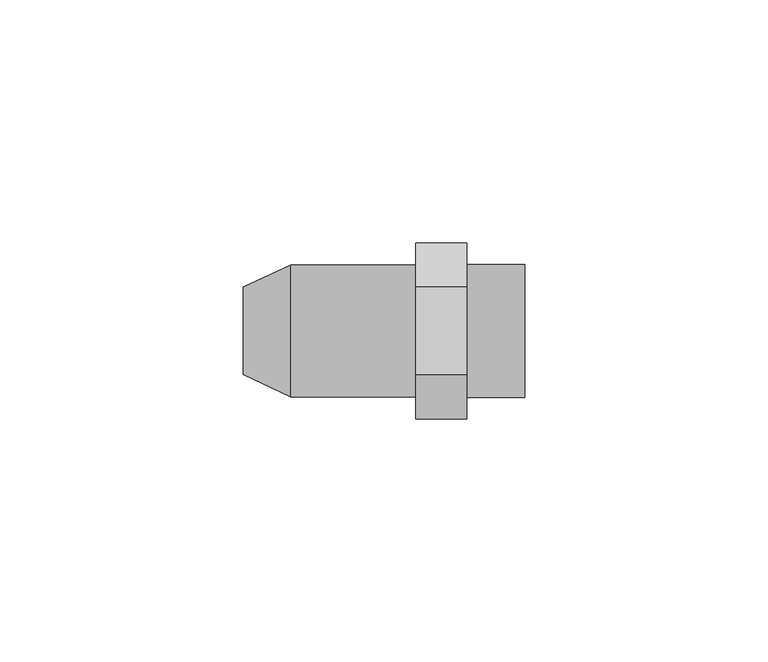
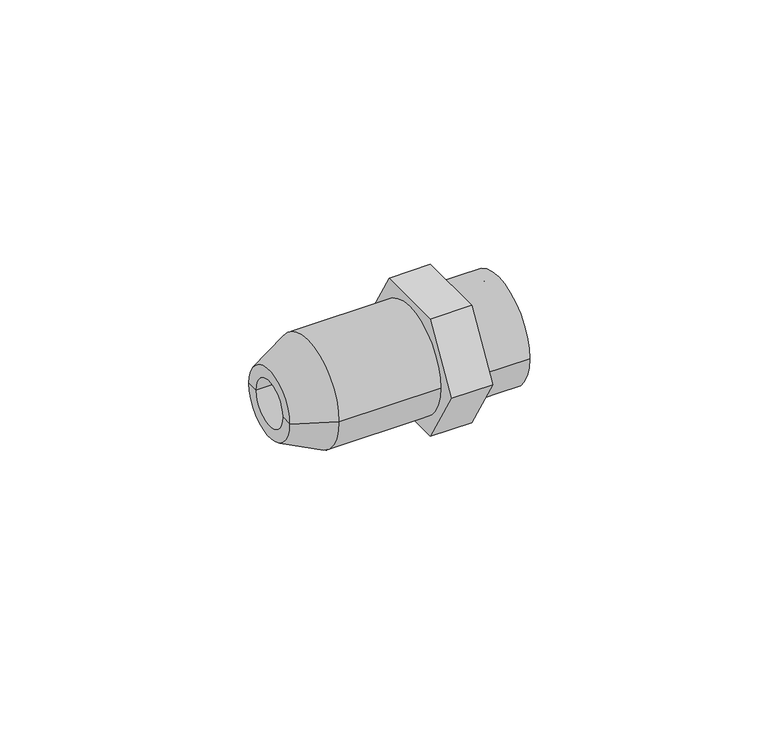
"""IFC4 building model written with IfcOpenShell, lengths in millimetres: pipe fitting geometry."""

import ifcopenshell
import ifcopenshell.guid

model = None  # the IFC model being written
_history = None  # IfcOwnerHistory: only IFC2X3 demands one
_inside = {}  # id of a spatial element -> (the spatial element, [elements in it])
_under = {}  # id of a project, library or spatial element -> (it, [spatial elements below it])
_declared = {}  # id of a project -> (the project, [libraries it declares])
_typed = {}  # id of a type object -> (the type object, [elements of that type])
_made_of = {}  # id of a material, layer set ... -> (it, [elements and type objects made of it])


def new_model(schema):
    """Start an empty IFC model of exactly this schema.

    Asked for "IFC4X3", IfcOpenShell would pick the latest addendum, in which some entities
    have other attributes; the version numbers below select the first issue.
    IFC2X3 requires an IfcOwnerHistory on every rooted entity: one is made here for all.
    """
    global model, _history
    if schema == "IFC4X3":
        model = ifcopenshell.file(schema_version=(4, 3, 0, 0))
    else:
        model = ifcopenshell.file(schema=schema)
    _inside.clear()
    _under.clear()
    _declared.clear()
    _typed.clear()
    _made_of.clear()
    _history = None
    if model.schema == "IFC2X3":
        org = make("IfcOrganization", Name="unknown")
        user = make(
            "IfcPersonAndOrganization",
            ThePerson=make("IfcPerson", FamilyName="unknown"),
            TheOrganization=org,
        )
        app = make(
            "IfcApplication",
            ApplicationDeveloper=org,
            Version="unknown",
            ApplicationFullName="unknown",
            ApplicationIdentifier="unknown",
        )
        _history = make(
            "IfcOwnerHistory",
            OwningUser=user,
            OwningApplication=app,
            ChangeAction="ADDED",
            CreationDate=0,
        )
    return model


def make(cls, **values):
    """One entity of the class cls with the attributes given. An attribute that is None is left unset."""
    return model.create_entity(
        cls, **{name: value for name, value in values.items() if value is not None}
    )


def rooted(cls, **values):
    """An entity with a GlobalId (a new one), such as an element, a storey or a relation."""
    return make(cls, GlobalId=ifcopenshell.guid.new(), OwnerHistory=_history, **values)


def si_unit(unit_type, name, prefix=None):
    """IfcSIUnit, for example si_unit("LENGTHUNIT", "METRE", prefix="MILLI")."""
    return make("IfcSIUnit", UnitType=unit_type, Prefix=prefix, Name=name)


def assignment(units):
    """IfcUnitAssignment: the units of a project."""
    return None if units is None else make("IfcUnitAssignment", Units=units)


def point(xyz):
    """IfcCartesianPoint."""
    return None if xyz is None else make("IfcCartesianPoint", Coordinates=xyz)


def direction(xyz):
    """IfcDirection."""
    return None if xyz is None else make("IfcDirection", DirectionRatios=xyz)


def frame(location, z_axis=None, x_axis=None):
    """IfcAxis2Placement3D, a coordinate frame: its origin and axes. An axis left out is left unset."""
    return make(
        "IfcAxis2Placement3D",
        Location=point(location),
        Axis=direction(z_axis),
        RefDirection=direction(x_axis),
    )


def frame_2d(location, x_axis=None):
    """IfcAxis2Placement2D, a coordinate frame in the plane: its origin and x axis."""
    return make(
        "IfcAxis2Placement2D", Location=point(location), RefDirection=direction(x_axis)
    )


def origin():
    """The frame at (0, 0, 0) with its axes left unset."""
    return frame((0.0, 0.0, 0.0))


def origin_2d():
    """The frame at (0, 0) in the plane with its x axis left unset."""
    return frame_2d((0.0, 0.0))


def place(relative_to, where):
    """IfcLocalPlacement: puts the frame where relative to a parent placement (None: the world)."""
    return make(
        "IfcLocalPlacement", PlacementRelTo=relative_to, RelativePlacement=where
    )


def context(
    kind, dimensions, precision=None, world=None, true_north=None, identifier=None
):
    """IfcGeometricRepresentationContext, for example the 3D "Model" context."""
    return make(
        "IfcGeometricRepresentationContext",
        ContextIdentifier=identifier,
        ContextType=kind,
        CoordinateSpaceDimension=dimensions,
        Precision=precision,
        WorldCoordinateSystem=world,
        TrueNorth=true_north,
    )


def project(units=None, contexts=None):
    """IfcProject with its units and contexts."""
    return rooted(
        "IfcProject",
        Name="project",
        RepresentationContexts=contexts,
        UnitsInContext=assignment(units),
    )


def spatial(cls, under=None, at=None, **own):
    """A site, building, storey or space (cls), placed at a placement, below another one or the project."""
    s = rooted(cls, ObjectPlacement=at, **own)
    if under is not None:
        _under.setdefault(under.id(), (under, []))[1].append(s)
    return s


def polyline(points):
    """IfcPolyline through the points."""
    return make("IfcPolyline", Points=[point(p) for p in points])


def circle_curve(where, radius):
    """IfcCircle in the frame where."""
    return make("IfcCircle", Position=where, Radius=radius)


def trimmed(basis, trim1, trim2, sense, master):
    """IfcTrimmedCurve: the piece of a basis curve between two trims."""
    return make(
        "IfcTrimmedCurve",
        BasisCurve=basis,
        Trim1=trim1,
        Trim2=trim2,
        SenseAgreement=sense,
        MasterRepresentation=master,
    )


def segment(curve, same_sense, transition):
    """IfcCompositeCurveSegment."""
    return make(
        "IfcCompositeCurveSegment",
        Transition=transition,
        SameSense=same_sense,
        ParentCurve=curve,
    )


def composite_curve(segments, self_intersect=None):
    """IfcCompositeCurve: segments joined end to end."""
    return make("IfcCompositeCurve", Segments=segments, SelfIntersect=self_intersect)


def outline(outer, holes=None, kind="AREA"):
    """IfcArbitraryClosedProfileDef: a profile drawn as a closed curve; with holes, ...WithVoids."""
    if holes is None:
        return make("IfcArbitraryClosedProfileDef", ProfileType=kind, OuterCurve=outer)
    return make(
        "IfcArbitraryProfileDefWithVoids",
        ProfileType=kind,
        OuterCurve=outer,
        InnerCurves=holes,
    )


def extrude(swept, where, along, depth):
    """IfcExtrudedAreaSolid: the profile swept, set in the frame where, extruded along a direction by depth."""
    return make(
        "IfcExtrudedAreaSolid",
        SweptArea=swept,
        Position=where,
        ExtrudedDirection=direction(along),
        Depth=depth,
    )


def shape(context_of_items, identifier, shape_type, items):
    """IfcShapeRepresentation: the items that make up one representation, for example the "Body"."""
    return make(
        "IfcShapeRepresentation",
        ContextOfItems=context_of_items,
        RepresentationIdentifier=identifier,
        RepresentationType=shape_type,
        Items=items,
    )


def source(mapping_origin, context_of_items, identifier, shape_type, items):
    """IfcRepresentationMap: a shape defined once, which mapped items show again and again."""
    return make(
        "IfcRepresentationMap",
        MappingOrigin=mapping_origin,
        MappedRepresentation=shape(context_of_items, identifier, shape_type, items),
    )


def transform(
    local_origin,
    x_axis=None,
    y_axis=None,
    z_axis=None,
    scale=None,
    scale2=None,
    scale3=None,
    uniform=True,
):
    """IfcCartesianTransformationOperator3D, or its non-uniform kind. x_axis, y_axis, z_axis: its Axis1, 2, 3."""
    if uniform:
        return make(
            "IfcCartesianTransformationOperator3D",
            Axis1=direction(x_axis),
            Axis2=direction(y_axis),
            LocalOrigin=point(local_origin),
            Scale=scale,
            Axis3=direction(z_axis),
        )
    return make(
        "IfcCartesianTransformationOperator3DnonUniform",
        Axis1=direction(x_axis),
        Axis2=direction(y_axis),
        LocalOrigin=point(local_origin),
        Scale=scale,
        Axis3=direction(z_axis),
        Scale2=scale2,
        Scale3=scale3,
    )


def mapped(mapping_source, mapping_target):
    """IfcMappedItem: shows the shape of a source again, moved by a transform."""
    return make(
        "IfcMappedItem", MappingSource=mapping_source, MappingTarget=mapping_target
    )


def made_of(thing, what):
    """Note that an element or type object is made of a material, layer set ...; save() writes the relation."""
    if what is not None:
        _made_of.setdefault(what.id(), (what, []))[1].append(thing)
    return thing


def element(
    cls,
    number,
    at=None,
    inside=None,
    cuts=None,
    type_object=None,
    material=None,
    context=None,
    identifier="Body",
    shape_type=None,
    held_by="IfcProductDefinitionShape",
    body=None,
    shapes=None,
    **own,
):
    """One element of the class cls, such as IfcWall. Its Tag is "e" and its number.

    at: its placement. inside: the storey or other place that contains it. cuts: it is an
    opening in that element (IfcRelVoidsElement). A single representation is given by context,
    identifier, shape_type and body (its items); several are given by shapes. held_by: the class
    of the entity that holds the representations. save() writes the other relations.
    """
    e = rooted(cls, Tag="e%d" % number, ObjectPlacement=at, **own)
    if body is not None:
        shapes = [shape(context, identifier, shape_type, body)]
    if shapes is not None:
        e.Representation = make(held_by, Representations=shapes)
    if inside is not None:
        _inside.setdefault(inside.id(), (inside, []))[1].append(e)
    if cuts is not None:
        rooted(
            "IfcRelVoidsElement", RelatingBuildingElement=cuts, RelatedOpeningElement=e
        )
    if type_object is not None:
        _typed.setdefault(type_object.id(), (type_object, []))[1].append(e)
    return made_of(e, material)


def aggregate(whole, parts):
    """IfcRelAggregates: a whole, such as a stair, and the parts it consists of."""
    return rooted("IfcRelAggregates", RelatingObject=whole, RelatedObjects=parts)


def save(model, path):
    """Write the relations noted so far, then the file.

    IfcRelAggregates (storeys below a building ...), IfcRelContainedInSpatialStructure (elements
    in a storey), IfcRelDefinesByType, IfcRelAssociatesMaterial and IfcRelDeclares: one each for
    every whole, place, type object, material and project.
    """
    for whole, parts in _under.values():
        aggregate(whole, parts)
    for where, things in _inside.values():
        rooted(
            "IfcRelContainedInSpatialStructure",
            RelatedElements=things,
            RelatingStructure=where,
        )
    for kind, things in _typed.values():
        rooted("IfcRelDefinesByType", RelatedObjects=things, RelatingType=kind)
    for what, things in _made_of.values():
        rooted("IfcRelAssociatesMaterial", RelatedObjects=things, RelatingMaterial=what)
    for by, libraries in _declared.values():
        rooted("IfcRelDeclares", RelatingContext=by, RelatedDefinitions=libraries)
    model.write(path)


def plane_surface(at):
    """IfcPlane: the flat surface through the origin of the frame at, square to its z axis."""
    return make("IfcPlane", Position=at)


def cylinder_surface(at, radius):
    """IfcCylindricalSurface: all points at the distance radius from the z axis of the frame at."""
    return make("IfcCylindricalSurface", Position=at, Radius=radius)


def revolved_surface(curve, axis_point, axis_direction):
    """IfcSurfaceOfRevolution: the curve turned about the line through axis_point along axis_direction."""
    return make(
        "IfcSurfaceOfRevolution",
        SweptCurve=make("IfcArbitraryOpenProfileDef", ProfileType="CURVE", Curve=curve),
        AxisPosition=make("IfcAxis1Placement", Location=point(axis_point), Axis=direction(axis_direction)),
    )


def advanced_brep(points, edges, surfaces, faces):
    """IfcAdvancedBrep: a solid bounded by faces that lie on surfaces and meet in shared edges.

    An edge is (start, end): straight between two places in points (the first is 0);
    or (start, end, curve); or (start, end, curve, False) where it runs against its curve.
    A face is (place in surfaces, loops), or (place, loops, False) where it looks against
    its surface's normal. A loop lists edges by number (the first is 1), with a minus sign
    where the edge is run from its end to its start. The first loop is the outer one.
    """
    corners = [point(p) for p in points]
    vertices = [make("IfcVertexPoint", VertexGeometry=c) for c in corners]
    made = []
    for start, end, *more in edges:
        made.append(
            make(
                "IfcEdgeCurve",
                EdgeStart=vertices[start],
                EdgeEnd=vertices[end],
                EdgeGeometry=more[0] if more else make("IfcPolyline", Points=[corners[start], corners[end]]),
                SameSense=more[1] if len(more) > 1 else True,
            )
        )
    hull = []
    for where, loops, *sense in faces:
        bounds = []
        for j, loop in enumerate(loops):
            ring = [make("IfcOrientedEdge", EdgeElement=made[abs(k) - 1], Orientation=k > 0) for k in loop]
            bounds.append(
                make(
                    "IfcFaceOuterBound" if j == 0 else "IfcFaceBound",
                    Bound=make("IfcEdgeLoop", EdgeList=ring),
                    Orientation=True,
                )
            )
        hull.append(make("IfcAdvancedFace", Bounds=bounds, FaceSurface=surfaces[where], SameSense=sense[0] if sense else True))
    return make("IfcAdvancedBrep", Outer=make("IfcClosedShell", CfsFaces=hull))


def pipe_fitting_8df948b1(model_context):
    return source(origin(), model_context, "Body", "SolidModel", [
        advanced_brep(
        [(2.0, -13.6, 0.0), (2.0, 13.6, 0.0), (2.0, 0.0, 0.0), (-23.6352682, -13.6, 0.0), (-23.6352682, 13.6, 0.0), (-33.5, -9.0, 0.0), (-33.5, 9.0, 0.0), (-33.5, -6.0, 0.0), (-33.5, 6.0, 0.0), (-8.5, -6.0, 0.0), (-8.5, 6.0, 0.0), (-8.5, 0.0, 0.0)],
        [
            (0, 1, circle_curve(frame((2.0, 0.0, 0.0), z_axis=(1.0, 0.0, 0.0), x_axis=(0.0, 1.0, 0.0)), 13.6)),
            (1, 2),
            (2, 0),
            (1, 0, circle_curve(frame((2.0, 0.0, 0.0), z_axis=(1.0, 0.0, 0.0), x_axis=(0.0, 1.0, 0.0)), 13.6)),
            (3, 4, circle_curve(frame((-23.6352682, 0.0, 0.0), z_axis=(1.0, 0.0, 0.0), x_axis=(0.0, 1.0, 0.0)), 13.6)),
            (4, 1),
            (0, 3),
            (4, 3, circle_curve(frame((-23.6352682, 0.0, 0.0), z_axis=(1.0, 0.0, 0.0), x_axis=(0.0, 1.0, 0.0)), 13.6)),
            (5, 6, circle_curve(frame((-33.5, 0.0, 0.0), z_axis=(1.0, 0.0, 0.0), x_axis=(0.0, 1.0, 0.0)), 9.0)),
            (6, 4),
            (3, 5),
            (6, 5, circle_curve(frame((-33.5, 0.0, 0.0), z_axis=(1.0, 0.0, 0.0), x_axis=(0.0, 1.0, 0.0)), 9.0)),
            (7, 8, circle_curve(frame((-33.5, 0.0, 0.0), z_axis=(1.0, 0.0, 0.0), x_axis=(0.0, 1.0, 0.0)), 6.0)),
            (8, 6),
            (5, 7),
            (8, 7, circle_curve(frame((-33.5, 0.0, 0.0), z_axis=(1.0, 0.0, 0.0), x_axis=(0.0, 1.0, 0.0)), 6.0)),
            (9, 10, circle_curve(frame((-8.5, 0.0, 0.0), z_axis=(1.0, 0.0, 0.0), x_axis=(0.0, 1.0, 0.0)), 6.0)),
            (10, 8),
            (7, 9),
            (10, 9, circle_curve(frame((-8.5, 0.0, 0.0), z_axis=(1.0, 0.0, 0.0), x_axis=(0.0, 1.0, 0.0)), 6.0)),
            (11, 10),
            (9, 11),
        ],
        [
            plane_surface(frame((2.0, 0.0, 0.0), z_axis=(1.0, 0.0, 0.0), x_axis=(0.0, 1.0, 0.0))),
            cylinder_surface(frame((-43.5, 0.0, 0.0), z_axis=(-1.0, 0.0, 0.0), x_axis=(0.0, 1.0, 0.0)), 13.6),
            revolved_surface(polyline([(-23.6352682, 13.6, 0.0), (-33.5, 9.0, 0.0)]), (-43.5, 0.0, 0.0), (-1.0, 0.0, 0.0)),
            plane_surface(frame((-33.5, 0.0, 0.0), z_axis=(-1.0, 0.0, 0.0), x_axis=(0.0, 1.0, 0.0))),
            revolved_surface(polyline([(-33.5, 6.0, 0.0), (-8.5, 6.0, 0.0)]), (-43.5, 0.0, 0.0), (-1.0, 0.0, 0.0)),
            plane_surface(frame((-8.5, 0.0, 0.0), z_axis=(-1.0, 0.0, 0.0), x_axis=(0.0, 1.0, 0.0))),
        ],
        [
            (0, [[1, 2, 3]]),
            (0, [[4, -3, -2]]),
            (1, [[5, 6, -1, 7]]),
            (1, [[8, -7, -4, -6]]),
            (2, [[9, 10, -5, 11]]),
            (2, [[12, -11, -8, -10]]),
            (3, [[13, 14, -9, 15]]),
            (3, [[16, -15, -12, -14]]),
            (4, [[17, 18, -13, 19]]),
            (4, [[20, -19, -16, -18]]),
            (5, [[21, -17, 22]]),
            (5, [[-22, -20, -21]]),
        ],
    ),
        extrude(outline(composite_curve([segment(trimmed(circle_curve(origin_2d(), 13.65), [point((-13.65, 0.0))], [point((13.65, 0.0))], False, "CARTESIAN"), True, "CONTINUOUS"), segment(trimmed(circle_curve(origin_2d(), 13.65), [point((13.65, 0.0))], [point((-13.65, 0.0))], False, "CARTESIAN"), True, "CONTINUOUS")], self_intersect=False), holes=[composite_curve([segment(trimmed(circle_curve(origin_2d(), 10.65), [point((-10.65, 0.0))], [point((10.65, 0.0))], True, "CARTESIAN"), True, "CONTINUOUS"), segment(trimmed(circle_curve(origin_2d(), 10.65), [point((10.65, 0.0))], [point((-10.65, 0.0))], True, "CARTESIAN"), True, "CONTINUOUS")], self_intersect=False)]), frame((12.5, 0.0, 0.0), z_axis=(1.0, 0.0, 0.0), x_axis=(0.0, 1.0, 0.0)), (0.0, 0.0, 1.0), 12.0),
        extrude(outline(polyline([(-18.1259117, 0.0), (-9.0629559, 15.6975), (9.0629559, 15.6975), (18.1259117, 0.0), (9.0629559, -15.6975), (-9.0629559, -15.6975), (-18.1259117, 0.0)])), frame((2.0, 0.0, 0.0), z_axis=(1.0, 0.0, 0.0), x_axis=(0.0, 1.0, 0.0)), (0.0, 0.0, 1.0), 10.5),
    ])


if __name__ == "__main__":
    model = new_model("IFC4")
    model_context = context("Model", 3, world=origin())
    ifc_project = project(units=[si_unit("LENGTHUNIT", "METRE", prefix="MILLI")], contexts=[model_context])
    site = spatial("IfcSite", under=ifc_project)
    building = spatial("IfcBuilding", under=site)
    placement = place(None, origin())
    pipe_fitting_shape = pipe_fitting_8df948b1(model_context)
    element("IfcPipeFitting", 1, ObjectType="NLRS_50_PIF_UN_PushFit overgang met binnendraad (brons)_geb : DN12-20-Rp1\" / d16-25-Rp1\"", at=placement, inside=building, context=model_context, shape_type="MappedRepresentation", body=[
        mapped(pipe_fitting_shape, transform((0.0, 0.0, 0.0), x_axis=(1.0, 0.0, 0.0), y_axis=(0.0, 1.0, 0.0), z_axis=(0.0, 0.0, 1.0))),
    ])
    save(model, "model.ifc")
